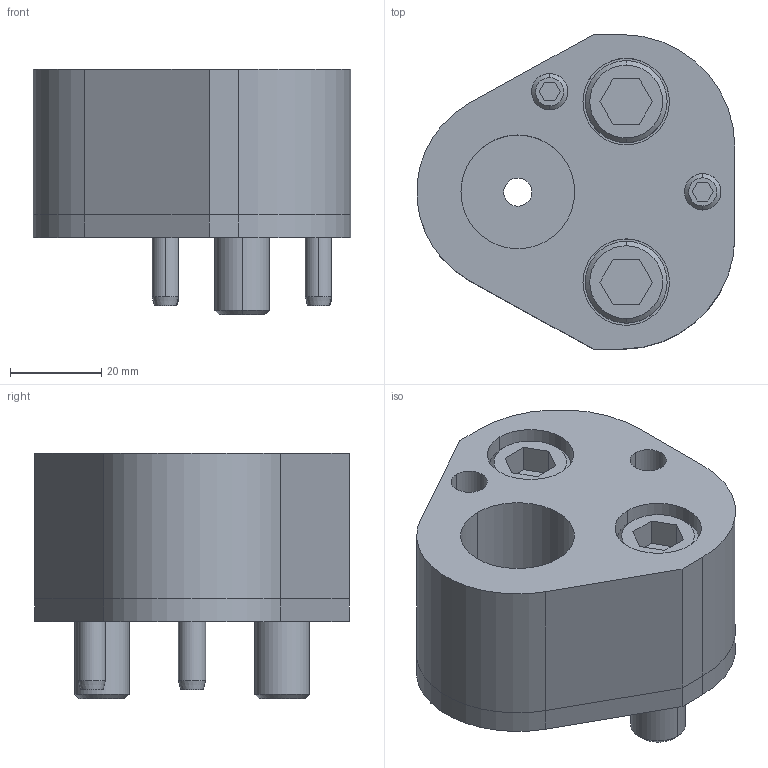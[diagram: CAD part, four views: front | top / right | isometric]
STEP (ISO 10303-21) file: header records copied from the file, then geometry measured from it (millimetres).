
FILE_DESCRIPTION(/* description */ (''),/* implementation_level */ '2;1');
FILE_NAME(/* name */ '3d_crn-ap25_03623_r00.stp',/* time_stamp */ '2011-01-10T14:16:23+09:00',/* author */ ('MISUMI'),/* organization */ (''),/* preprocessor_version */ 'ST-DEVELOPER v11',/* originating_system */ 'UGS - NX 5.0',/* authorisation */ '');
FILE_SCHEMA (('CONFIG_CONTROL_DESIGN'));
Length unit declared in the file: millimetre
Products named in the file (1): 3d_crn-ap25_03623_r00
Bounding box: 69.83 x 69.1 x 54 mm (x, y, z)
Volume: 118467.3 mm3; surface area: 36064.3 mm2
Topology: 8 solids, 8 shells, 155 faces, 348 edges, 224 vertices
Faces by surface type: plane 67, cylinder 62, cone 26
Entity records: 4494 total; most frequent: DIRECTION 804, CARTESIAN_POINT 782, ORIENTED_EDGE 696, EDGE_CURVE 348, AXIS2_PLACEMENT_3D 306, VERTEX_POINT 224, LINE 192, VECTOR 192
